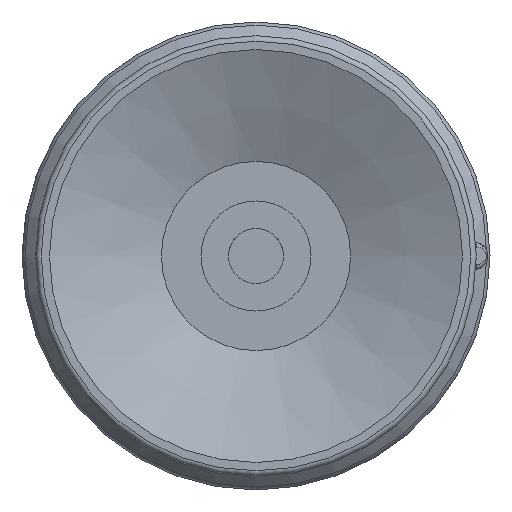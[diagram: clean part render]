
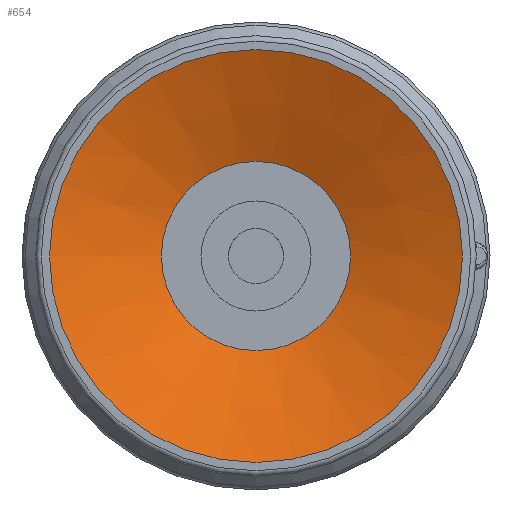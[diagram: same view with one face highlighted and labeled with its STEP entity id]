
A CAD part, front view. The second image highlights one B-rep face of the part: STEP entity #654.
In plain terms, the highlighted conical face has half-angle 67.5 degrees and reference radius 3.437 mm.
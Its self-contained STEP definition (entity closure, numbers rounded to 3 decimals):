
#654=ADVANCED_FACE('',(#954,#955),#956,.F.);
#954=FACE_BOUND('',#2286,.T.);
#955=FACE_OUTER_BOUND('',#2287,.T.);
#956=CONICAL_SURFACE('',#2288,3.437,1.178);
#2286=EDGE_LOOP('',(#3105));
#2287=EDGE_LOOP('',(#3106));
#2288=AXIS2_PLACEMENT_3D('',#3107,#3108,#3109);
#3105=ORIENTED_EDGE('',*,*,#3402,.F.);
#3106=ORIENTED_EDGE('',*,*,#3403,.T.);
#3107=CARTESIAN_POINT('',(0.0,0.0,1.683));
#3108=DIRECTION('',(0.0,0.,-1.0));
#3109=DIRECTION('',(0.0,1.0,0.));
#3402=EDGE_CURVE('',#3804,#3804,#3805,.T.);
#3403=EDGE_CURVE('',#3806,#3806,#3807,.T.);
#3804=VERTEX_POINT('',#4841);
#3805=CIRCLE('',#4842,3.437);
#3806=VERTEX_POINT('',#4843);
#3807=CIRCLE('',#4844,7.5);
#4841=CARTESIAN_POINT('',(-3.437,0.0,1.683));
#4842=AXIS2_PLACEMENT_3D('',#5174,#5175,#5176);
#4843=CARTESIAN_POINT('',(-7.5,0.0,0.));
#4844=AXIS2_PLACEMENT_3D('',#5177,#5178,#5179);
#5174=CARTESIAN_POINT('',(0.0,0.0,1.683));
#5175=DIRECTION('',(0.0,0.,-1.0));
#5176=DIRECTION('',(0.0,1.0,0.));
#5177=CARTESIAN_POINT('',(0.0,0.0,0.));
#5178=DIRECTION('',(0.0,0.,-1.0));
#5179=DIRECTION('',(0.0,1.0,0.));
